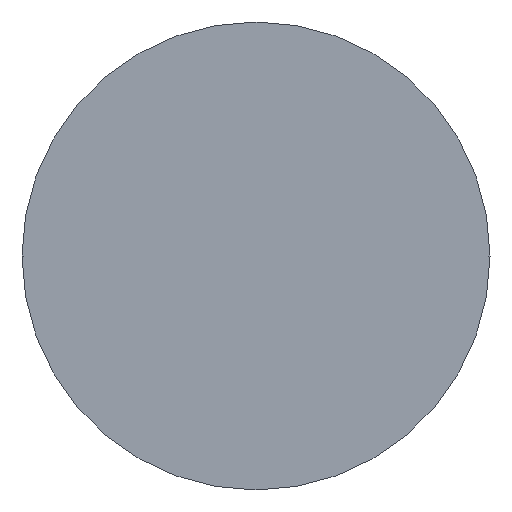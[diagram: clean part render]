
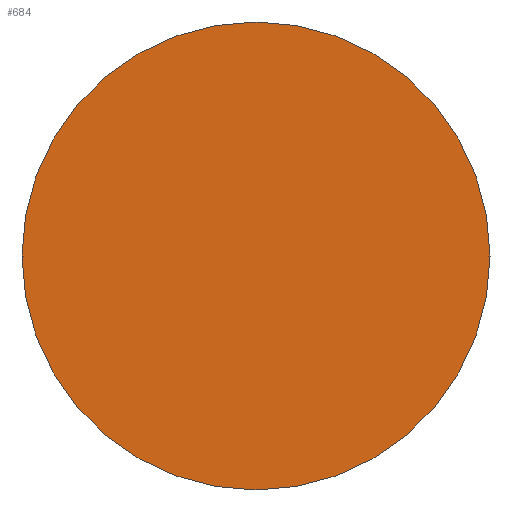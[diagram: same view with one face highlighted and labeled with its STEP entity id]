
A CAD part, top view. The second image highlights one B-rep face of the part: STEP entity #684.
In plain terms, the highlighted planar face has unit normal (0, 0, 1).
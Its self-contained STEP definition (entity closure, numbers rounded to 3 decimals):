
#523=CARTESIAN_POINT('',(0.,0.125,1.25));
#524=DIRECTION('',(0.,0.,-1.));
#525=DIRECTION('',(1.,0.,0.));
#526=AXIS2_PLACEMENT_3D('',#523,#524,#525);
#528=CARTESIAN_POINT('',(0.,0.125,1.25));
#529=DIRECTION('',(0.,0.,-1.));
#530=DIRECTION('',(-1.,0.,0.));
#531=AXIS2_PLACEMENT_3D('',#528,#529,#530);
#553=CARTESIAN_POINT('',(1.819,0.125,1.25));
#554=VERTEX_POINT('',#553);
#555=CARTESIAN_POINT('',(-1.819,0.125,1.25));
#556=VERTEX_POINT('',#555);
#675=CARTESIAN_POINT('',(0.,0.125,1.25));
#676=DIRECTION('',(0.,0.,1.));
#677=DIRECTION('',(1.,0.,0.));
#678=AXIS2_PLACEMENT_3D('',#675,#676,#677);
#679=PLANE('',#678);
#680=ORIENTED_EDGE('',*,*,#669,.T.);
#681=ORIENTED_EDGE('',*,*,#655,.T.);
#682=EDGE_LOOP('',(#680,#681));
#683=FACE_OUTER_BOUND('',#682,.F.);
#527=CIRCLE('',#526,1.819);
#532=CIRCLE('',#531,1.819);
#655=EDGE_CURVE('',#556,#554,#532,.T.);
#669=EDGE_CURVE('',#554,#556,#527,.T.);
#684=ADVANCED_FACE('',(#683),#679,.T.);
